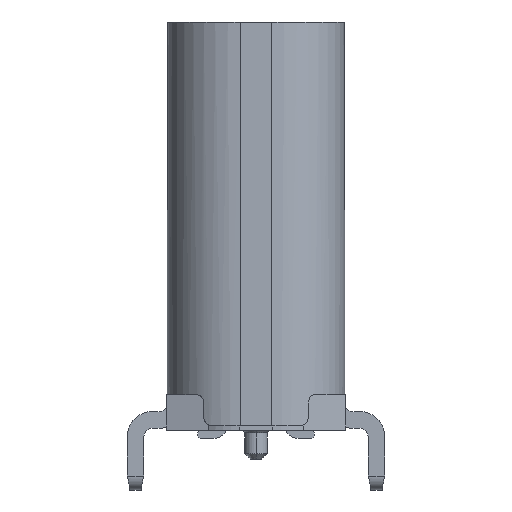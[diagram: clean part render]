
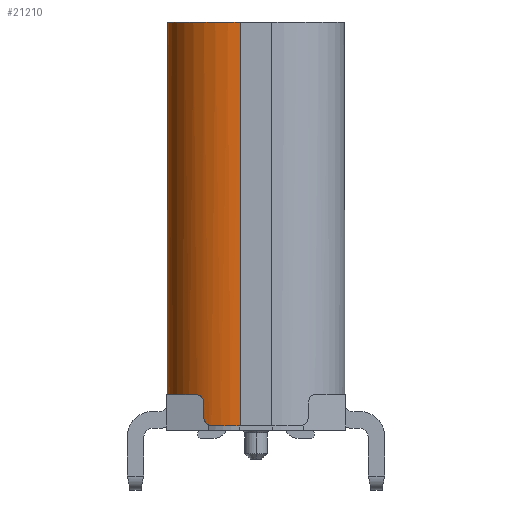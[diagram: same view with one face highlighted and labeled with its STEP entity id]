
A CAD part, left-side view. The second image highlights one B-rep face of the part: STEP entity #21210.
In plain terms, the highlighted cylindrical face has radius 1.3 mm (diameter 2.6 mm), a partial arc.
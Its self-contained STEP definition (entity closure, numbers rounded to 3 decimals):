
#2286=CARTESIAN_POINT('',(-3.17,0.28,-0.85));
#2287=DIRECTION('',(0.,0.,1.));
#2288=DIRECTION('',(0.,1.,0.));
#2289=AXIS2_PLACEMENT_3D('',#2286,#2287,#2288);
#3463=CARTESIAN_POINT('',(-3.17,0.28,5.8));
#3464=DIRECTION('',(0.,0.,-1.));
#3465=DIRECTION('',(-1.,0.,0.));
#3466=AXIS2_PLACEMENT_3D('',#3463,#3464,#3465);
#3556=CARTESIAN_POINT('',(-4.213,1.056,-0.85));
#3557=CARTESIAN_POINT('',(-4.223,1.043,
-0.85));
#3558=CARTESIAN_POINT('',(-4.241,1.018,
-0.855));
#3559=CARTESIAN_POINT('',(-4.265,0.982,
-0.877));
#3560=CARTESIAN_POINT('',(-4.282,0.953,
-0.91));
#3561=CARTESIAN_POINT('',(-4.293,0.934,
-0.953));
#3562=CARTESIAN_POINT('',(-4.296,0.93,
-0.984));
#3563=CARTESIAN_POINT('',(-4.296,0.93,
-1.));
#3573=CARTESIAN_POINT('',(-3.17,0.28,-0.85));
#3574=DIRECTION('',(0.,0.,1.));
#3575=DIRECTION('',(-0.502,0.865,0.));
#3576=AXIS2_PLACEMENT_3D('',#3573,#3574,#3575);
#3774=DIRECTION('',(0.,0.,1.));
#3775=VECTOR('',#3774,6.65);
#3776=CARTESIAN_POINT('',(-3.17,1.58,-0.85));
#3777=LINE('',#3776,#3775);
#3778=DIRECTION('',(0.,0.,-1.));
#3779=VECTOR('',#3778,7.2);
#3780=CARTESIAN_POINT('',(-4.47,0.28,5.8));
#3781=LINE('',#3780,#3779);
#3782=DIRECTION('',(0.,0.,1.));
#3783=VECTOR('',#3782,0.25);
#3784=CARTESIAN_POINT('',(-4.296,0.93,
-1.25));
#3785=LINE('',#3784,#3783);
#3786=CARTESIAN_POINT('',(-3.17,0.28,-0.85));
#3787=DIRECTION('',(0.,0.,1.));
#3788=DIRECTION('',(-0.096,0.995,0.));
#3789=AXIS2_PLACEMENT_3D('',#3786,#3787,#3788);
#3977=CARTESIAN_POINT('',(-3.17,0.28,-1.4));
#3978=DIRECTION('',(0.,0.,1.));
#3979=DIRECTION('',(-0.918,0.397,0.));
#3980=AXIS2_PLACEMENT_3D('',#3977,#3978,#3979);
#3996=CARTESIAN_POINT('',(-4.296,0.93,
-1.25));
#3997=CARTESIAN_POINT('',(-4.296,0.93,
-1.265));
#3998=CARTESIAN_POINT('',(-4.298,0.926,
-1.297));
#3999=CARTESIAN_POINT('',(-4.309,0.907,
-1.34));
#4000=CARTESIAN_POINT('',(-4.325,0.878,
-1.373));
#4001=CARTESIAN_POINT('',(-4.344,0.839,
-1.395));
#4002=CARTESIAN_POINT('',(-4.357,0.81,
-1.4));
#4003=CARTESIAN_POINT('',(-4.363,0.796,-1.4));
#15224=CARTESIAN_POINT('',(-3.295,1.574,-0.85));
#15225=CARTESIAN_POINT('',(-3.822,1.404,-0.85));
#15226=VERTEX_POINT('',#15224);
#15227=VERTEX_POINT('',#15225);
#15238=CARTESIAN_POINT('',(-3.17,1.58,-0.85));
#15239=VERTEX_POINT('',#15238);
#15240=CARTESIAN_POINT('',(-4.363,0.796,-1.4));
#15241=CARTESIAN_POINT('',(-4.47,0.28,-1.4));
#15242=VERTEX_POINT('',#15240);
#15243=VERTEX_POINT('',#15241);
#15244=VERTEX_POINT('',#3996);
#15245=CARTESIAN_POINT('',(-4.296,0.93,
-1.));
#15246=VERTEX_POINT('',#15245);
#15247=VERTEX_POINT('',#3556);
#16794=CARTESIAN_POINT('',(-4.47,0.28,5.8));
#16795=VERTEX_POINT('',#16794);
#16796=CARTESIAN_POINT('',(-3.17,1.58,5.8));
#16797=VERTEX_POINT('',#16796);
#21188=CARTESIAN_POINT('',(-3.17,0.28,-1.526));
#21189=DIRECTION('',(0.,0.,1.));
#21190=DIRECTION('',(1.,0.,0.));
#21191=AXIS2_PLACEMENT_3D('',#21188,#21189,#21190);
#21192=CYLINDRICAL_SURFACE('',#21191,1.3);
#21194=ORIENTED_EDGE('',*,*,#21193,.F.);
#21195=ORIENTED_EDGE('',*,*,#19286,.F.);
#21197=ORIENTED_EDGE('',*,*,#21196,.T.);
#21198=ORIENTED_EDGE('',*,*,#20727,.F.);
#21200=ORIENTED_EDGE('',*,*,#21199,.T.);
#21202=ORIENTED_EDGE('',*,*,#21201,.F.);
#21204=ORIENTED_EDGE('',*,*,#21203,.F.);
#21205=ORIENTED_EDGE('',*,*,#21181,.T.);
#21206=ORIENTED_EDGE('',*,*,#20902,.F.);
#21207=ORIENTED_EDGE('',*,*,#20916,.F.);
#21208=EDGE_LOOP('',(#21194,#21195,#21197,#21198,#21200,#21202,#21204,#21205,
#21206,#21207));
#21209=FACE_OUTER_BOUND('',#21208,.F.);
#21210=ADVANCED_FACE('',(#21209),#21192,.T.);
#2290=CIRCLE('',#2289,1.3);
#3467=CIRCLE('',#3466,1.3);
#3564=B_SPLINE_CURVE_WITH_KNOTS('',3,(#3556,#3557,#3558,#3559,#3560,#3561,#3562,
#3563),.UNSPECIFIED.,.F.,.F.,(4,1,1,1,1,4),(0.,0.2,0.4,0.6,0.8,1.),
.UNSPECIFIED.);
#3577=CIRCLE('',#3576,1.3);
#3790=CIRCLE('',#3789,1.3);
#3981=CIRCLE('',#3980,1.3);
#4004=B_SPLINE_CURVE_WITH_KNOTS('',3,(#3996,#3997,#3998,#3999,#4000,#4001,#4002,
#4003),.UNSPECIFIED.,.F.,.F.,(4,1,1,1,1,4),(0.,0.2,0.4,0.6,0.8,1.),
.UNSPECIFIED.);
#19286=EDGE_CURVE('',#15239,#15226,#2290,.T.);
#20727=EDGE_CURVE('',#16795,#16797,#3467,.T.);
#20902=EDGE_CURVE('',#15247,#15246,#3564,.T.);
#20916=EDGE_CURVE('',#15227,#15247,#3577,.T.);
#21181=EDGE_CURVE('',#15244,#15246,#3785,.T.);
#21193=EDGE_CURVE('',#15226,#15227,#3790,.T.);
#21196=EDGE_CURVE('',#15239,#16797,#3777,.T.);
#21199=EDGE_CURVE('',#16795,#15243,#3781,.T.);
#21201=EDGE_CURVE('',#15242,#15243,#3981,.T.);
#21203=EDGE_CURVE('',#15244,#15242,#4004,.T.);
